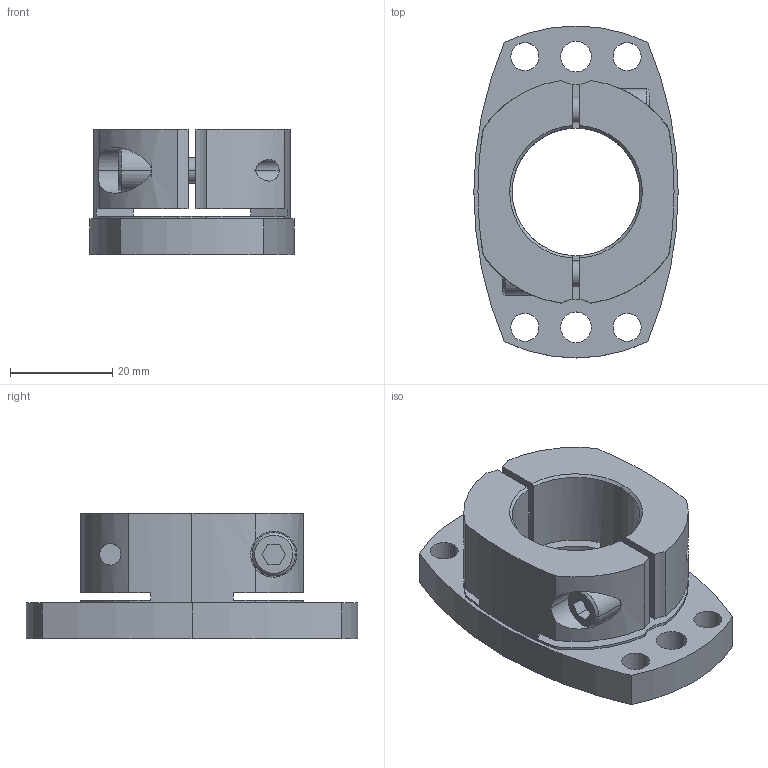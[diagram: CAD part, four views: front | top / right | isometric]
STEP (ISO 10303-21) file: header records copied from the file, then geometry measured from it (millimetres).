
FILE_DESCRIPTION((''),'2;1');
FILE_NAME('SHDB-65B-25.stp','2026-01-28T08:00:23',(''),(''),'AutoCAD STEP 2000i','AutoCAD 2000i',', , ');
FILE_SCHEMA(('CONFIG_CONTROL_DESIGN'));
Length unit declared in the file: millimetre
Products named in the file (2): SHDB-65B-24; 忣兜1
Assembly tree (1 placements, depth 2):
  SHDB-65B-24
    忣兜1
Bounding box: 40 x 65 x 24.5 mm (x, y, z)
Volume: 25571.8 mm3; surface area: 11876.5 mm2
Topology: 1 solids, 1 shells, 102 faces, 274 edges, 180 vertices
Faces by surface type: cylinder 58, plane 34, cone 10
Entity records: 3623 total; most frequent: CARTESIAN_POINT 824, DIRECTION 600, ORIENTED_EDGE 548, EDGE_CURVE 274, AXIS2_PLACEMENT_3D 238, VERTEX_POINT 180, CIRCLE 134, EDGE_LOOP 126
